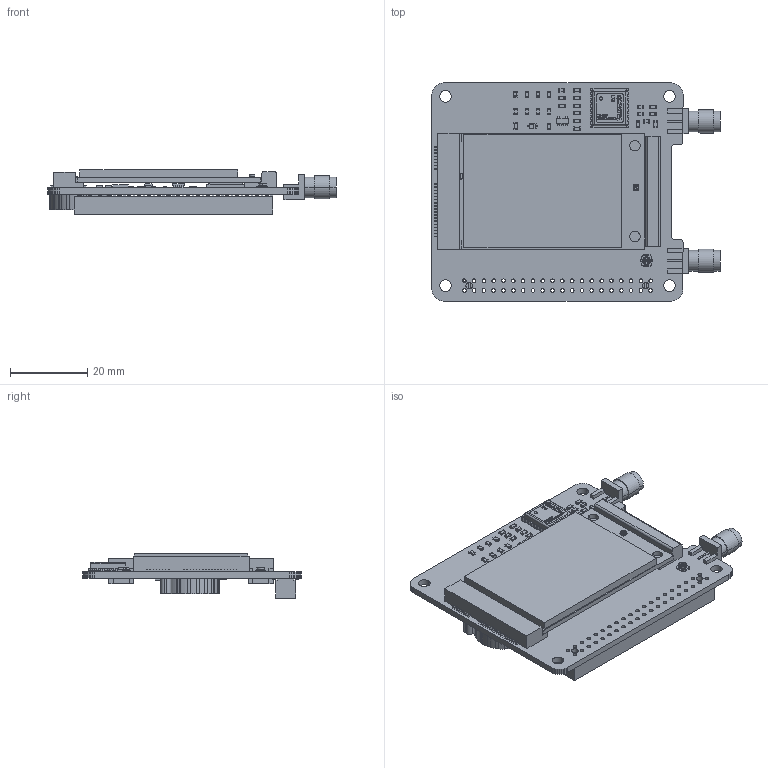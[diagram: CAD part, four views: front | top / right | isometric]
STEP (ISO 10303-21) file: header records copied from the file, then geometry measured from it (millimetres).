
FILE_DESCRIPTION((''),'2;1');
FILE_NAME('SX1303-868M-LORAWAN-GATEWAY-HAT_ASM','2025-10-28T15:53:37',('ag'),(''),'CREO PARAMETRIC BY PTC INC, 2021063','CREO PARAMETRIC BY PTC INC, 2021063','');
FILE_SCHEMA(('CONFIG_CONTROL_DESIGN','SHAPE_APPEARANCE_LAYERS_GROUPS'));
Products named in the file (67): BOARD; EXTRUDED-10730; _1581316784_ASM; U2_ASM; EXTRUDED-11133; 611173392_ASM; EXTRUDED-11510; 611173264_ASM; C14_ASM; C13_ASM; R10_ASM; R11_ASM; USER_LIBRARY-U_FL-R-SMT_10_; H4_ASM; USER_LIBRARY-QUECTEL_L76; Q1_ASM; ALSROBOT-CR1220_USER_LIBR-69417; ALSROBOT-CR1220_USER_LIBR-78065; ALSROBOT-CR1220_USER_LIBR-78594; ALSROBOT-CR1220_USER_LIBR-85132; ALSROBOT-CR1220_USER_LIBR-87497; ALSROBOT-CR1220_ASM; BAT1_ASM; C1_ASM; C2_ASM; EXTRUDED-87992; 611175440_ASM; EXTRUDED-88364; 611175312_ASM; C3_ASM; C4_ASM; C5_ASM; C6_ASM; C7_ASM; C8_ASM; C9_ASM; CIRCUITWORKS-RC1206; C10_ASM; C11_ASM; C12_ASM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
Assembly tree (147 placements, depth 4):
  SX1303-868M-LORAWAN-GATEWAY-HAT_ASM
    BOARD
    U2_ASM
      _1581316784_ASM
        EXTRUDED-10730
    C14_ASM
      611173392_ASM  x2
        EXTRUDED-11133
      611173264_ASM
        EXTRUDED-11510
    C13_ASM
      611173392_ASM  x2
        EXTRUDED-11133
      611173264_ASM
        EXTRUDED-11510
    R10_ASM
      611173264_ASM
        EXTRUDED-11510
      611173392_ASM  x2
        EXTRUDED-11133
    R11_ASM
      611173264_ASM
        EXTRUDED-11510
      611173392_ASM  x2
        EXTRUDED-11133
    H4_ASM
      USER_LIBRARY-U_FL-R-SMT_10_
    Q1_ASM
      USER_LIBRARY-QUECTEL_L76
    BAT1_ASM
      ALSROBOT-CR1220_ASM
        ALSROBOT-CR1220_USER_LIBR-69417
        ALSROBOT-CR1220_USER_LIBR-78065  x2
        ALSROBOT-CR1220_USER_LIBR-78594
        ALSROBOT-CR1220_USER_LIBR-85132
        ALSROBOT-CR1220_USER_LIBR-87497
    C1_ASM
      611173264_ASM
        EXTRUDED-11510
      611173392_ASM  x2
        EXTRUDED-11133
    C2_ASM
      611173264_ASM
        EXTRUDED-11510
      611173392_ASM  x2
        EXTRUDED-11133
    C3_ASM
      611175440_ASM
        EXTRUDED-87992
      611175312_ASM  x2
        EXTRUDED-88364
    C4_ASM
      611175440_ASM
        EXTRUDED-87992
      611175312_ASM  x2
        EXTRUDED-88364
    C5_ASM
      611173264_ASM
        EXTRUDED-11510
      611173392_ASM  x2
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Bounding box: 74.61 x 56.52 x 11.49 mm (x, y, z)
Volume: 13128.1 mm3; surface area: 17687.1 mm2
Topology: 101 solids, 103 shells, 3148 faces, 8290 edges, 5455 vertices
Faces by surface type: plane 2506, cylinder 493, extrusion 129, bspline 8, cone 8, sphere 2, torus 2
Entity records: 116717 total; most frequent: CARTESIAN_POINT 23020, ORIENTED_EDGE 14343, DIRECTION 13133, EDGE_CURVE 7187, PRESENTATION_STYLE_ASSIGNMENT 6061, VECTOR 5939, LINE 5810, STYLED_ITEM 5460
